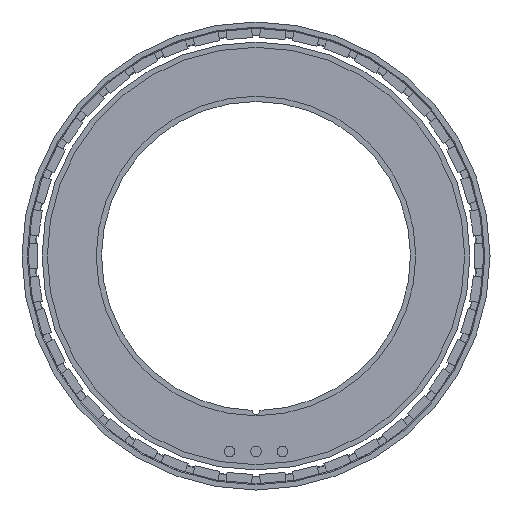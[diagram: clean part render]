
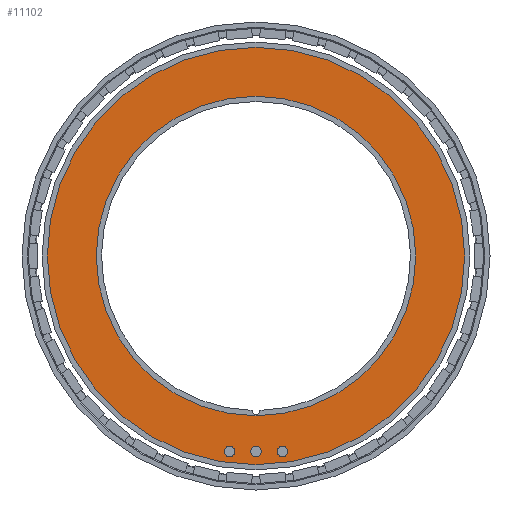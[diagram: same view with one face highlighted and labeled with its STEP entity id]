
A CAD part, front view. The second image highlights one B-rep face of the part: STEP entity #11102.
In plain terms, the highlighted planar face has unit normal (0, -1, 0).
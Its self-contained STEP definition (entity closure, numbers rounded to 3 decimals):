
#164 = EDGE_LOOP ( 'NONE', ( #8915 ) ) ;
#319 = CARTESIAN_POINT ( 'NONE',  ( -5., -4., -38. ) ) ;
#527 = CARTESIAN_POINT ( 'NONE',  ( 5., -4., -38. ) ) ;
#582 = DIRECTION ( 'NONE',  ( 0., -1., 0. ) ) ;
#586 = VERTEX_POINT ( 'NONE', #2931 ) ;
#1058 = DIRECTION ( 'NONE',  ( 0., -1., 0. ) ) ;
#1131 = AXIS2_PLACEMENT_3D ( 'NONE', #8987, #5460, #4732 ) ;
#2096 = CIRCLE ( 'NONE', #10243, 1. ) ;
#2101 = EDGE_CURVE ( 'NONE', #5729, #5729, #5919, .T. ) ;
#2116 = ORIENTED_EDGE ( 'NONE', *, *, #2101, .F. ) ;
#2673 = DIRECTION ( 'NONE',  ( 0., 0., -1. ) ) ;
#2812 = ORIENTED_EDGE ( 'NONE', *, *, #10341, .F. ) ;
#2826 = FACE_OUTER_BOUND ( 'NONE', #5080, .T. ) ;
#2882 = FACE_BOUND ( 'NONE', #2900, .T. ) ;
#2900 = EDGE_LOOP ( 'NONE', ( #2116 ) ) ;
#2931 = CARTESIAN_POINT ( 'NONE',  ( 0., -4., 30.25 ) ) ;
#2943 = FACE_BOUND ( 'NONE', #7203, .T. ) ;
#3050 = DIRECTION ( 'NONE',  ( 0., 0., 1. ) ) ;
#3144 = AXIS2_PLACEMENT_3D ( 'NONE', #10410, #1058, #2673 ) ;
#3397 = AXIS2_PLACEMENT_3D ( 'NONE', #4395, #4289, #6025 ) ;
#4040 = DIRECTION ( 'NONE',  ( 0., 0., -1. ) ) ;
#4043 = VERTEX_POINT ( 'NONE', #10001 ) ;
#4289 = DIRECTION ( 'NONE',  ( 0., -1., 0. ) ) ;
#4395 = CARTESIAN_POINT ( 'NONE',  ( -5., -4., -37. ) ) ;
#4725 = CIRCLE ( 'NONE', #1131, 30.25 ) ;
#4732 = DIRECTION ( 'NONE',  ( 0., 0., 1. ) ) ;
#4872 = CARTESIAN_POINT ( 'NONE',  ( 0., -4., -37. ) ) ;
#4877 = VERTEX_POINT ( 'NONE', #6391 ) ;
#5080 = EDGE_LOOP ( 'NONE', ( #5374 ) ) ;
#5294 = EDGE_CURVE ( 'NONE', #4877, #4877, #8224, .T. ) ;
#5374 = ORIENTED_EDGE ( 'NONE', *, *, #5294, .F. ) ;
#5419 = PLANE ( 'NONE',  #7217 ) ;
#5460 = DIRECTION ( 'NONE',  ( 0., 1., 0. ) ) ;
#5591 = CARTESIAN_POINT ( 'NONE',  ( 0., -4., 0. ) ) ;
#5729 = VERTEX_POINT ( 'NONE', #319 ) ;
#5865 = CARTESIAN_POINT ( 'NONE',  ( 0., -4., 0. ) ) ;
#5919 = CIRCLE ( 'NONE', #3397, 1. ) ;
#6025 = DIRECTION ( 'NONE',  ( 0., 0., -1. ) ) ;
#6391 = CARTESIAN_POINT ( 'NONE',  ( 0., -4., 39.5 ) ) ;
#6618 = DIRECTION ( 'NONE',  ( 0., 1., 0. ) ) ;
#7131 = CIRCLE ( 'NONE', #3144, 1. ) ;
#7203 = EDGE_LOOP ( 'NONE', ( #2812 ) ) ;
#7217 = AXIS2_PLACEMENT_3D ( 'NONE', #5591, #10610, #3050 ) ;
#7443 = VERTEX_POINT ( 'NONE', #527 ) ;
#8224 = CIRCLE ( 'NONE', #9484, 39.5 ) ;
#8586 = EDGE_LOOP ( 'NONE', ( #9362 ) ) ;
#8739 = EDGE_CURVE ( 'NONE', #4043, #4043, #2096, .T. ) ;
#8915 = ORIENTED_EDGE ( 'NONE', *, *, #9173, .T. ) ;
#8942 = FACE_BOUND ( 'NONE', #8586, .T. ) ;
#8987 = CARTESIAN_POINT ( 'NONE',  ( 0., -4., 0. ) ) ;
#8999 = FACE_BOUND ( 'NONE', #164, .T. ) ;
#9173 = EDGE_CURVE ( 'NONE', #586, #586, #4725, .T. ) ;
#9362 = ORIENTED_EDGE ( 'NONE', *, *, #8739, .F. ) ;
#9484 = AXIS2_PLACEMENT_3D ( 'NONE', #5865, #6618, #10303 ) ;
#10001 = CARTESIAN_POINT ( 'NONE',  ( 0., -4., -38. ) ) ;
#10243 = AXIS2_PLACEMENT_3D ( 'NONE', #4872, #582, #4040 ) ;
#10303 = DIRECTION ( 'NONE',  ( 0., 0., 1. ) ) ;
#10341 = EDGE_CURVE ( 'NONE', #7443, #7443, #7131, .T. ) ;
#10410 = CARTESIAN_POINT ( 'NONE',  ( 5., -4., -37. ) ) ;
#10610 = DIRECTION ( 'NONE',  ( 0., 1., 0. ) ) ;
#11102 = ADVANCED_FACE ( 'NONE', ( #2882, #2943, #8942, #2826, #8999 ), #5419, .F. ) ;
